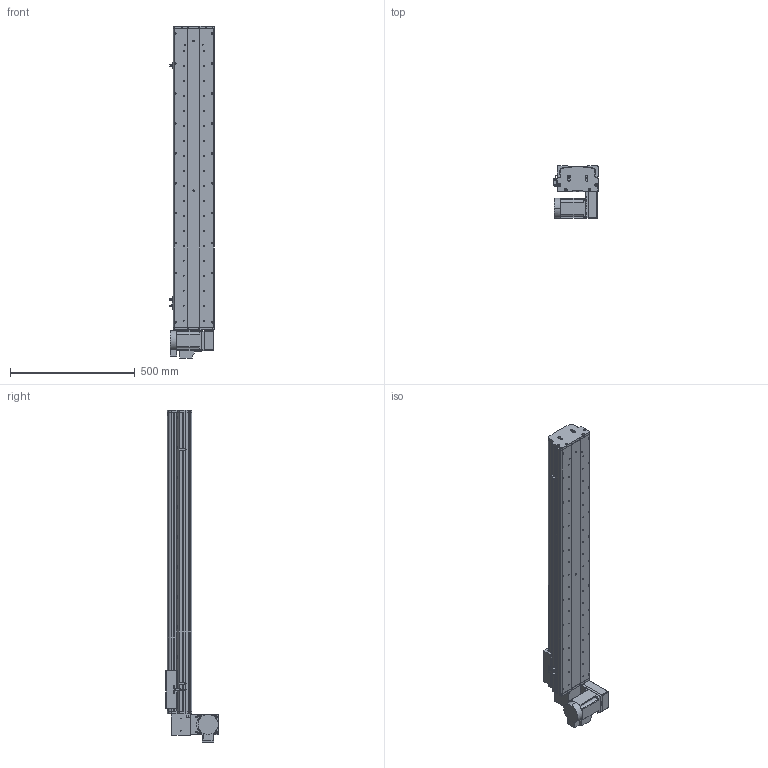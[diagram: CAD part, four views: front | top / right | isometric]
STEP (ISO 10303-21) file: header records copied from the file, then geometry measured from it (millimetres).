
FILE_DESCRIPTION (( 'STEP AP214' ), '1' );
FILE_NAME ('KSD165B-S950-MRD-CM .STEP', '2017-10-16T09:41:04', ( '微软用户' ), ( '微软中国' ), 'SwSTEP 2.0', 'SolidWorks 2014', '' );
FILE_SCHEMA (( 'AUTOMOTIVE_DESIGN' ));
Length unit declared in the file: millimetre
Products named in the file (17): 130宽模组马达安装板连板上下折丝杆同步带; 130宽模组保护罩上下左右折-同步带; HTPA26S5M250-A-H8 750W萇儂蚚; HTPA26S5M250-A-H8 400W萇儂蚚 ; KSD165模组-同步带防尘盖1-950行程-最新版; KSD165模组同步带底板-950行程-最新; 拸秶雄ん750W侜督萇儂; 165宽马达安装板同步带右; U倰嫖萇假蚾璃; U倰嫖萇EEㄜSX672; 覜茼え68遵圉猾敕; KSD165模组-同步带-防撞垫2; KSD165模组同步带-防撞垫1; KSD165耀郪-ヶ傷啣1-肮祭湍; KSD165模组-后端板1-同步带; KSD165模组-同步带滑动座-最新版; KSD165B-S950-MRD-CM 
Assembly tree (20 placements, depth 2):
  KSD165B-S950-MRD-CM 
    KSD165模组-同步带滑动座-最新版
    KSD165模组-后端板1-同步带
    KSD165耀郪-ヶ傷啣1-肮祭湍
    KSD165模组同步带-防撞垫1
    KSD165模组-同步带-防撞垫2
    覜茼え68遵圉猾敕
    U倰嫖萇EEㄜSX672  x3
    U倰嫖萇假蚾璃  x3
    165宽马达安装板同步带右
    拸秶雄ん750W侜督萇儂
    KSD165模组同步带底板-950行程-最新
    KSD165模组-同步带防尘盖1-950行程-最新版
    HTPA26S5M250-A-H8 400W萇儂蚚 
    HTPA26S5M250-A-H8 750W萇儂蚚
    130宽模组保护罩上下左右折-同步带
    130宽模组马达安装板连板上下折丝杆同步带
Bounding box: 178.7 x 210 x 1330.5 mm (x, y, z)
Volume: 7694080.5 mm3; surface area: 1786193.3 mm2
Topology: 21 solids, 21 shells, 1961 faces, 5538 edges, 3616 vertices
Faces by surface type: cylinder 1263, plane 586, cone 112
Entity records: 63724 total; most frequent: CARTESIAN_POINT 13048, DIRECTION 10470, ORIENTED_EDGE 9736, EDGE_CURVE 4868, AXIS2_PLACEMENT_3D 4108, VERTEX_POINT 3208, CIRCLE 2344, VECTOR 2254
